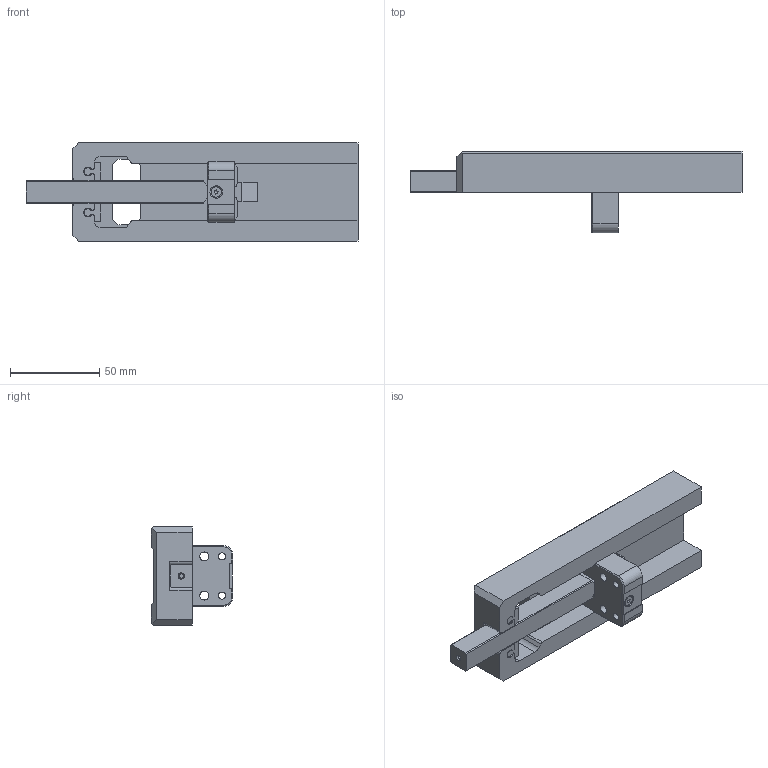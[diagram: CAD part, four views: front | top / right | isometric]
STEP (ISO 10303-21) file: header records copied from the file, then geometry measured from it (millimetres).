
FILE_DESCRIPTION (( 'STEP AP203' ), '1' );
FILE_NAME ('SA-60-160-00.STEP', '2015-06-16T04:54:21', ( '' ), ( '' ), 'SwSTEP 2.0', 'SolidWorks 2015', '' );
FILE_SCHEMA (( 'CONFIG_CONTROL_DESIGN' ));
Length unit declared in the file: millimetre
Products named in the file (2): SA-60-160-00
Bounding box: 186.32 x 45.7 x 55 mm (x, y, z)
Surface area: 42948.4 mm2 (no closed solid volume)
Topology: 0 solids, 10 shells, 139 faces, 490 edges, 350 vertices
Faces by surface type: plane 97, cylinder 33, cone 9
Full cylindrical faces by diameter (mm): 1.3 x2, 2.5 x1, 4 x2, 4.2 x2, 5 x2, 5.7 x1
Entity records: 5290 total; most frequent: CARTESIAN_POINT 996, DIRECTION 841, ORIENTED_EDGE 787, EDGE_CURVE 472, LINE 361, VECTOR 361, VERTEX_POINT 347, AXIS2_PLACEMENT_3D 240
